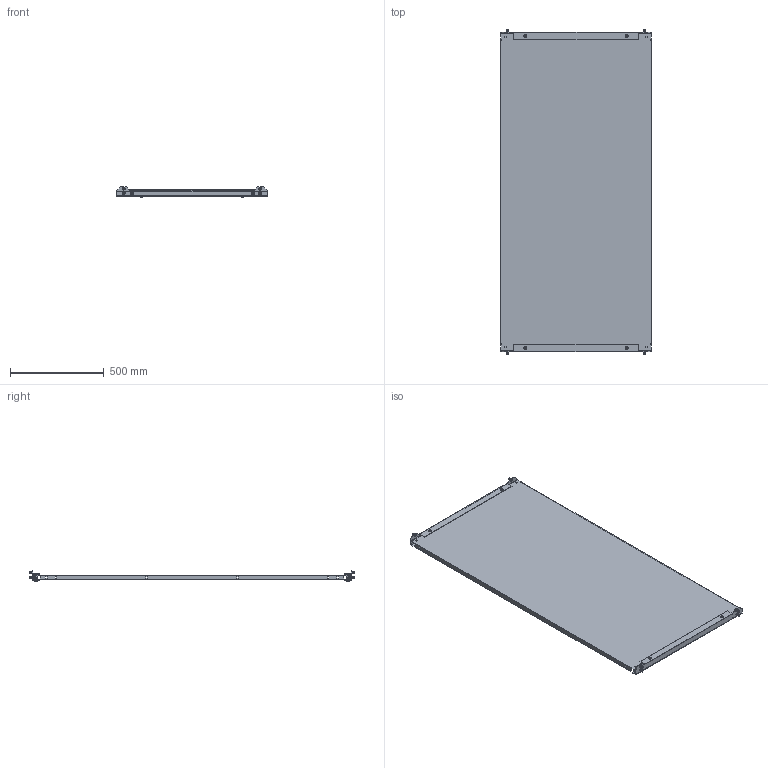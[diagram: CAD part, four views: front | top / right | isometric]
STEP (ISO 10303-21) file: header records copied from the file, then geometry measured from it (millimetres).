
FILE_DESCRIPTION(('Open CASCADE Model'),'2;1');
FILE_NAME('Open CASCADE Shape Model','2025-02-13T16:49:51',('Author'),( 'Open CASCADE'),'Open CASCADE STEP processor 7.8','Open CASCADE 7.8' ,'Unknown');
FILE_SCHEMA(('AUTOMOTIVE_DESIGN { 1 0 10303 214 1 1 1 1 }'));
Length unit declared in the file: millimetre
Products named in the file (11): Compound1; Solid1; Compound2; Solid2; Solid3; Solid4; Solid5; Solid6; Solid7; Solid8; Solid9
Assembly tree (38 placements, depth 3):
  Compound1
    Solid1
    Compound2  x2
      Solid2
      Solid3
    Solid4  x4
    Solid5  x4
    Solid6  x4
    Solid7  x4
    Solid8  x8
    Solid9  x8
Bounding box: 800 x 1726 x 55.3 mm (x, y, z)
Volume: 4219516.8 mm3; surface area: 3408333.1 mm2
Topology: 39 solids, 39 shells, 2692 faces, 7206 edges, 4528 vertices
Faces by surface type: plane 1298, cylinder 730, bspline 304, cone 228, torus 128, sphere 4
Full cylindrical faces by diameter (mm): 5 x12, 6 x16, 6.5 x8, 6.8 x32, 8 x4, 8.3 x8, 8.4 x4, 9.5 x8, 10.1 x4, 10.44 x4, 10.5 x4, 11.57 x8, 12 x4, 12.65 x4, 16 x12, 16.55 x4
Entity records: 23066 total; most frequent: CARTESIAN_POINT 6118, ORIENTED_EDGE 3604, DIRECTION 3274, EDGE_CURVE 1802, VERTEX_POINT 1154, LINE 1150, VECTOR 1150, AXIS2_PLACEMENT_3D 1062
